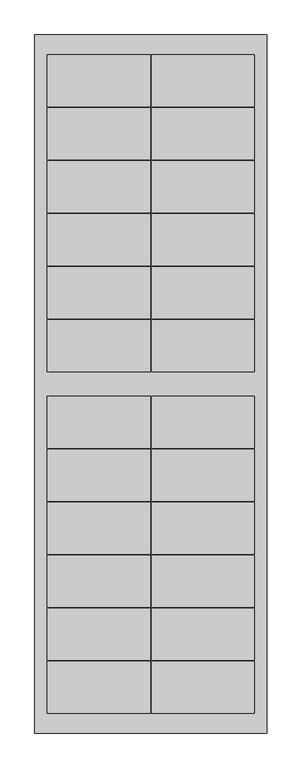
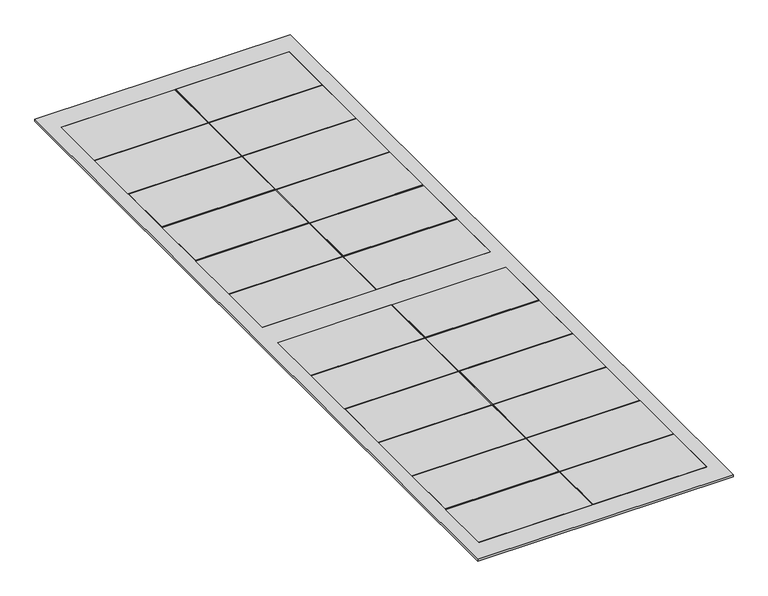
"""IFC4 building model written with IfcOpenShell, lengths in millimetres: proxy geometry, Construction-Roof_Roofit-Solar_velario-slim-t-2x18-120 : Velario Slim T-2x12/120."""

from ifc_helpers import new_model, si_unit, origin, origin_with_axes, place, context, project, spatial, polyline, outline, extrude, source, transform, mapped, element, save


def specialty_equipment_4e519f52(model_context):
    return source(origin(), model_context, "Body", "SweptSolid", [
        extrude(outline(polyline([(-209.2, 559.5), (-209.2, 664.5), (-1.0, 664.5), (-1.0, 559.5), (-209.2, 559.5)])), origin_with_axes(), (0.0, 0.0, 1.0), 3.2),
        extrude(outline(polyline([(1.0, 559.5), (1.0, 664.5), (209.2, 664.5), (209.2, 559.5), (1.0, 559.5)])), origin_with_axes(), (0.0, 0.0, 1.0), 3.2),
        extrude(outline(polyline([(-1.0, 557.5), (-1.0, 452.5), (-209.2, 452.5), (-209.2, 557.5), (-1.0, 557.5)])), origin_with_axes(), (0.0, 0.0, 1.0), 3.2),
        extrude(outline(polyline([(209.2, 557.5), (209.2, 452.5), (1.0, 452.5), (1.0, 557.5), (209.2, 557.5)])), origin_with_axes(), (0.0, 0.0, 1.0), 3.2),
        extrude(outline(polyline([(-209.2, 345.5), (-209.2, 450.5), (-1.0, 450.5), (-1.0, 345.5), (-209.2, 345.5)])), origin_with_axes(), (0.0, 0.0, 1.0), 3.2),
        extrude(outline(polyline([(1.0, 345.5), (1.0, 450.5), (209.2, 450.5), (209.2, 345.5), (1.0, 345.5)])), origin_with_axes(), (0.0, 0.0, 1.0), 3.2),
        extrude(outline(polyline([(-1.0, 343.5), (-1.0, 238.5), (-209.2, 238.5), (-209.2, 343.5), (-1.0, 343.5)])), origin_with_axes(), (0.0, 0.0, 1.0), 3.2),
        extrude(outline(polyline([(209.2, 343.5), (209.2, 238.5), (1.0, 238.5), (1.0, 343.5), (209.2, 343.5)])), origin_with_axes(), (0.0, 0.0, 1.0), 3.2),
        extrude(outline(polyline([(-1.0, 236.5), (-1.0, 131.5), (-209.2, 131.5), (-209.2, 236.5), (-1.0, 236.5)])), origin_with_axes(), (0.0, 0.0, 1.0), 3.2),
        extrude(outline(polyline([(209.2, 236.5), (209.2, 131.5), (1.0, 131.5), (1.0, 236.5), (209.2, 236.5)])), origin_with_axes(), (0.0, 0.0, 1.0), 3.2),
        extrude(outline(polyline([(209.2, 129.5), (209.2, 24.5), (1.0, 24.5), (1.0, 129.5), (209.2, 129.5)])), origin_with_axes(), (0.0, 0.0, 1.0), 3.2),
        extrude(outline(polyline([(-1.0, 129.5), (-1.0, 24.5), (-209.2, 24.5), (-209.2, 129.5), (-1.0, 129.5)])), origin_with_axes(), (0.0, 0.0, 1.0), 3.2),
        extrude(outline(polyline([(-1.0, -24.5), (-1.0, -129.5), (-209.2, -129.5), (-209.2, -24.5), (-1.0, -24.5)])), origin_with_axes(), (0.0, 0.0, 1.0), 3.2),
        extrude(outline(polyline([(209.2, -24.5), (209.2, -129.5), (1.0, -129.5), (1.0, -24.5), (209.2, -24.5)])), origin_with_axes(), (0.0, 0.0, 1.0), 3.2),
        extrude(outline(polyline([(-1.0, -131.5), (-1.0, -236.5), (-209.2, -236.5), (-209.2, -131.5), (-1.0, -131.5)])), origin_with_axes(), (0.0, 0.0, 1.0), 3.2),
        extrude(outline(polyline([(209.2, -131.5), (209.2, -236.5), (1.0, -236.5), (1.0, -131.5), (209.2, -131.5)])), origin_with_axes(), (0.0, 0.0, 1.0), 3.2),
        extrude(outline(polyline([(-1.0, -238.5), (-1.0, -343.5), (-209.2, -343.5), (-209.2, -238.5), (-1.0, -238.5)])), origin_with_axes(), (0.0, 0.0, 1.0), 3.2),
        extrude(outline(polyline([(209.2, -238.5), (209.2, -343.5), (1.0, -343.5), (1.0, -238.5), (209.2, -238.5)])), origin_with_axes(), (0.0, 0.0, 1.0), 3.2),
        extrude(outline(polyline([(-1.0, -345.5), (-1.0, -450.5), (-209.2, -450.5), (-209.2, -345.5), (-1.0, -345.5)])), origin_with_axes(), (0.0, 0.0, 1.0), 3.2),
        extrude(outline(polyline([(209.2, -345.5), (209.2, -450.5), (1.0, -450.5), (1.0, -345.5), (209.2, -345.5)])), origin_with_axes(), (0.0, 0.0, 1.0), 3.2),
        extrude(outline(polyline([(-1.0, -452.5), (-1.0, -557.5), (-209.2, -557.5), (-209.2, -452.5), (-1.0, -452.5)])), origin_with_axes(), (0.0, 0.0, 1.0), 3.2),
        extrude(outline(polyline([(209.2, -452.5), (209.2, -557.5), (1.0, -557.5), (1.0, -452.5), (209.2, -452.5)])), origin_with_axes(), (0.0, 0.0, 1.0), 3.2),
        extrude(outline(polyline([(-1.0, -559.5), (-1.0, -664.5), (-209.2, -664.5), (-209.2, -559.5), (-1.0, -559.5)])), origin_with_axes(), (0.0, 0.0, 1.0), 3.2),
        extrude(outline(polyline([(209.2, -559.5), (209.2, -664.5), (1.0, -664.5), (1.0, -559.5), (209.2, -559.5)])), origin_with_axes(), (0.0, 0.0, 1.0), 3.2),
        extrude(outline(polyline([(234.5, 704.5), (234.5, -704.5), (-234.5, -704.5), (-234.5, 704.5), (234.5, 704.5)]), holes=[polyline([(1.0, 559.5), (209.2, 559.5), (209.2, 664.5), (1.0, 664.5), (1.0, 559.5)]), polyline([(-1.0, 664.5), (-209.2, 664.5), (-209.2, 559.5), (-1.0, 559.5), (-1.0, 664.5)]), polyline([(1.0, 452.5), (209.2, 452.5), (209.2, 557.5), (1.0, 557.5), (1.0, 452.5)]), polyline([(-1.0, 557.5), (-209.2, 557.5), (-209.2, 452.5), (-1.0, 452.5), (-1.0, 557.5)]), polyline([(1.0, 345.5), (209.2, 345.5), (209.2, 450.5), (1.0, 450.5), (1.0, 345.5)]), polyline([(-1.0, 450.5), (-209.2, 450.5), (-209.2, 345.5), (-1.0, 345.5), (-1.0, 450.5)]), polyline([(1.0, 238.5), (209.2, 238.5), (209.2, 343.5), (1.0, 343.5), (1.0, 238.5)]), polyline([(-1.0, 343.5), (-209.2, 343.5), (-209.2, 238.5), (-1.0, 238.5), (-1.0, 343.5)]), polyline([(1.0, 131.5), (209.2, 131.5), (209.2, 236.5), (1.0, 236.5), (1.0, 131.5)]), polyline([(-1.0, 236.5), (-209.2, 236.5), (-209.2, 131.5), (-1.0, 131.5), (-1.0, 236.5)]), polyline([(1.0, 24.5), (209.2, 24.5), (209.2, 129.5), (1.0, 129.5), (1.0, 24.5)]), polyline([(-1.0, 129.5), (-209.2, 129.5), (-209.2, 24.5), (-1.0, 24.5), (-1.0, 129.5)]), polyline([(-1.0, -24.5), (-209.2, -24.5), (-209.2, -129.5), (-1.0, -129.5), (-1.0, -24.5)]), polyline([(1.0, -129.5), (209.2, -129.5), (209.2, -24.5), (1.0, -24.5), (1.0, -129.5)]), polyline([(-1.0, -131.5), (-209.2, -131.5), (-209.2, -236.5), (-1.0, -236.5), (-1.0, -131.5)]), polyline([(1.0, -236.5), (209.2, -236.5), (209.2, -131.5), (1.0, -131.5), (1.0, -236.5)]), polyline([(-1.0, -238.5), (-209.2, -238.5), (-209.2, -343.5), (-1.0, -343.5), (-1.0, -238.5)]), polyline([(1.0, -343.5), (209.2, -343.5), (209.2, -238.5), (1.0, -238.5), (1.0, -343.5)]), polyline([(-1.0, -345.5), (-209.2, -345.5), (-209.2, -450.5), (-1.0, -450.5), (-1.0, -345.5)]), polyline([(1.0, -450.5), (209.2, -450.5), (209.2, -345.5), (1.0, -345.5), (1.0, -450.5)]), polyline([(-1.0, -452.5), (-209.2, -452.5), (-209.2, -557.5), (-1.0, -557.5), (-1.0, -452.5)]), polyline([(1.0, -557.5), (209.2, -557.5), (209.2, -452.5), (1.0, -452.5), (1.0, -557.5)]), polyline([(-1.0, -559.5), (-209.2, -559.5), (-209.2, -664.5), (-1.0, -664.5), (-1.0, -559.5)]), polyline([(1.0, -664.5), (209.2, -664.5), (209.2, -559.5), (1.0, -559.5), (1.0, -664.5)])]), origin_with_axes(), (0.0, 0.0, 1.0), 3.2),
    ])


if __name__ == "__main__":
    model = new_model("IFC4")
    model_context = context("Model", 3, world=origin())
    ifc_project = project(units=[si_unit("LENGTHUNIT", "METRE", prefix="MILLI")], contexts=[model_context])
    site = spatial("IfcSite", under=ifc_project)
    building = spatial("IfcBuilding", under=site)
    placement = place(None, origin())
    specialty_equipment_shape = specialty_equipment_4e519f52(model_context)
    element("IfcBuildingElementProxy", 1, Name="Construction-Roof_Roofit-Solar_velario-slim-t-2x18-120 : Velario Slim T-2x12/120", ObjectType="Construction-Roof_Roofit-Solar_velario-slim-t-2x18-120 : Velario Slim T-2x12/120", at=placement, inside=building, context=model_context, shape_type="MappedRepresentation", body=[
        mapped(specialty_equipment_shape, transform((0.0, 0.0, 0.0), x_axis=(1.0, 0.0, 0.0), y_axis=(0.0, 1.0, 0.0), z_axis=(0.0, 0.0, 1.0))),
    ])
    save(model, "model.ifc")
